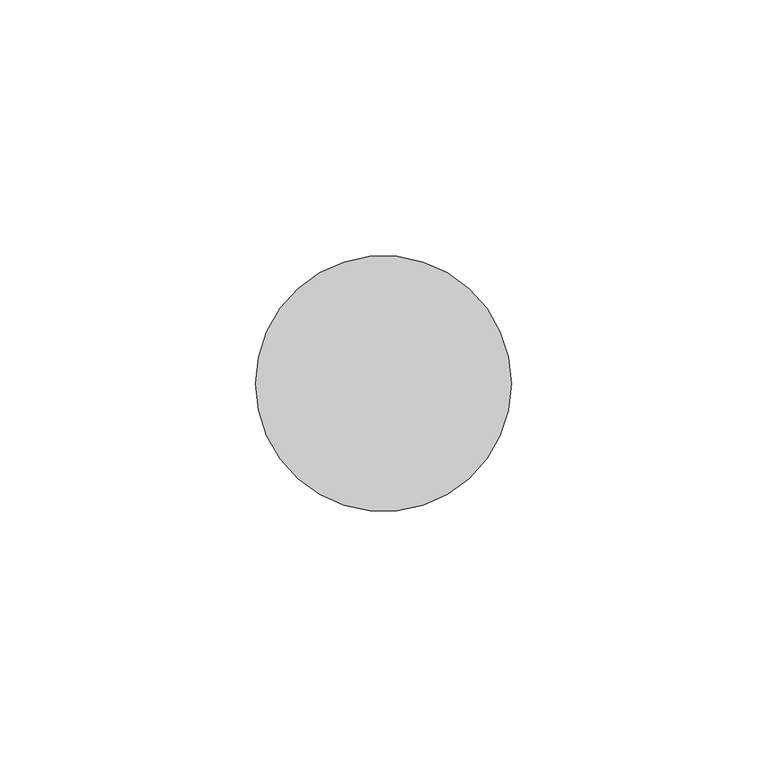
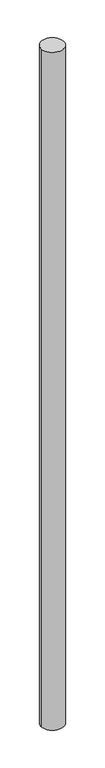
"""IFC4 building model written with IfcOpenShell, lengths in millimetres: member geometry, 圓形豎框 : 25mm 半徑."""

from ifc_helpers import new_model, si_unit, point, frame, origin, origin_2d, place, context, project, spatial, circle_curve, trimmed, segment, composite_curve, outline, extrude, source, transform, mapped, element, save


def member_bbfd51af(model_context):
    return source(origin(), model_context, "Body", "SweptSolid", [
        extrude(outline(composite_curve([segment(trimmed(circle_curve(origin_2d(), 25.0), [point((25.0, 0.0))], [point((-25.0, 0.0))], False, "CARTESIAN"), True, "CONTINUOUS"), segment(trimmed(circle_curve(origin_2d(), 25.0), [point((-25.0, 0.0))], [point((25.0, 0.0))], False, "CARTESIAN"), True, "CONTINUOUS")], self_intersect=False)), frame((0.0, 0.0, -1593.0359324), z_axis=(0.0, 0.0, 1.0), x_axis=(1.0, 0.0, 0.0)), (0.0, 0.0, 1.0), 1593.0359324),
    ])


if __name__ == "__main__":
    model = new_model("IFC4")
    model_context = context("Model", 3, world=origin())
    ifc_project = project(units=[si_unit("LENGTHUNIT", "METRE", prefix="MILLI")], contexts=[model_context])
    site = spatial("IfcSite", under=ifc_project)
    building = spatial("IfcBuilding", under=site)
    placement = place(None, origin())
    member_shape = member_bbfd51af(model_context)
    element("IfcMember", 1, ObjectType="圓形豎框 : 25mm 半徑", at=placement, inside=building, context=model_context, shape_type="MappedRepresentation", body=[
        mapped(member_shape, transform((0.0, 0.0, 0.0), x_axis=(1.0, 0.0, 0.0), y_axis=(0.0, 1.0, 0.0), z_axis=(0.0, 0.0, 1.0))),
    ])
    save(model, "model.ifc")
